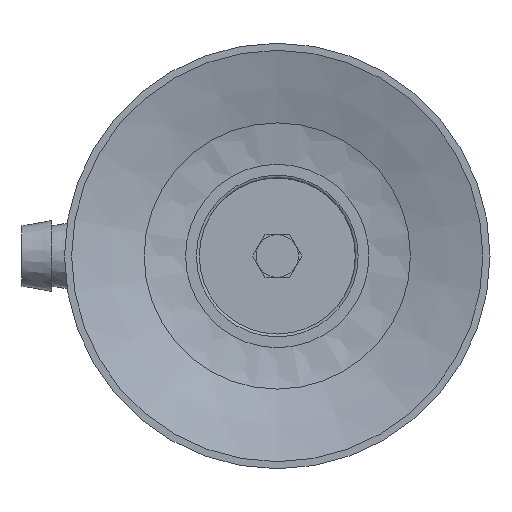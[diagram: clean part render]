
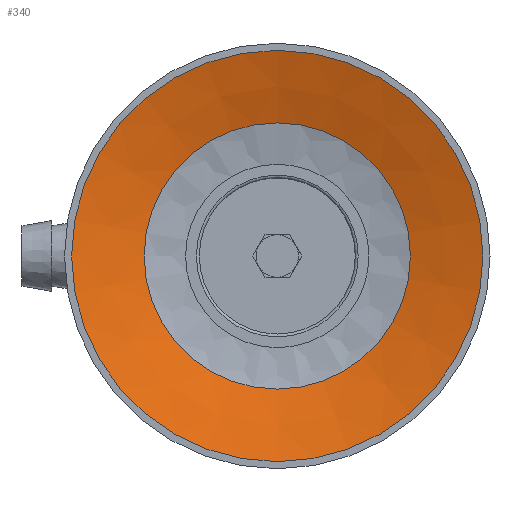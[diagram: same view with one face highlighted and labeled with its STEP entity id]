
A CAD part, front view. The second image highlights one B-rep face of the part: STEP entity #340.
In plain terms, the highlighted conical face has half-angle 73 degrees and reference radius 7.958 mm.
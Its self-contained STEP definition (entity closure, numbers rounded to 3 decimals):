
#340=ADVANCED_FACE('',(#530,#531),#532,.F.);
#530=FACE_BOUND('',#743,.T.);
#531=FACE_OUTER_BOUND('',#744,.T.);
#532=CONICAL_SURFACE('',#745,7.958,1.274);
#743=EDGE_LOOP('',(#1277));
#744=EDGE_LOOP('',(#1278));
#745=AXIS2_PLACEMENT_3D('',#1279,#1280,#1281);
#1277=ORIENTED_EDGE('',*,*,#1461,.T.);
#1278=ORIENTED_EDGE('',*,*,#1462,.T.);
#1279=CARTESIAN_POINT('',(0.0,9.363,0.0));
#1280=DIRECTION('',(-0.0,-1.0,0.));
#1281=DIRECTION('',(0.0,0.,-1.0));
#1461=EDGE_CURVE('',#1686,#1686,#1687,.T.);
#1462=EDGE_CURVE('',#1688,#1688,#1689,.T.);
#1686=VERTEX_POINT('',#2280);
#1687=CIRCLE('',#2281,9.388);
#1688=VERTEX_POINT('',#2282);
#1689=CIRCLE('',#2283,14.5);
#2280=CARTESIAN_POINT('',(0.0,8.926,-9.388));
#2281=AXIS2_PLACEMENT_3D('',#2502,#2503,#2504);
#2282=CARTESIAN_POINT('',(0.0,7.363,-14.5));
#2283=AXIS2_PLACEMENT_3D('',#2505,#2506,#2507);
#2502=CARTESIAN_POINT('',(0.0,8.926,0.0));
#2503=DIRECTION('',(0.0,1.0,0.));
#2504=DIRECTION('',(0.0,0.,-1.0));
#2505=CARTESIAN_POINT('',(0.0,7.363,0.0));
#2506=DIRECTION('',(0.0,-1.0,0.));
#2507=DIRECTION('',(0.0,0.,-1.0));
